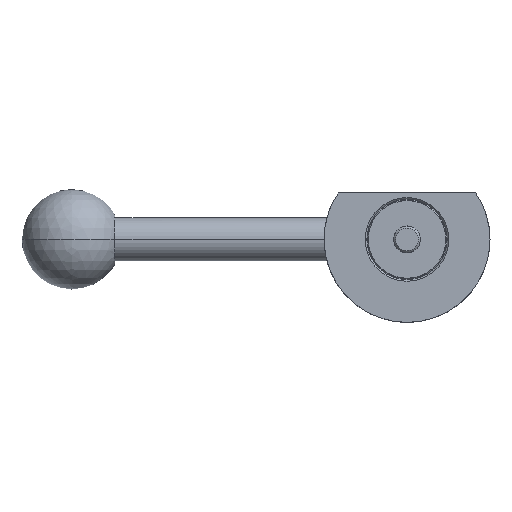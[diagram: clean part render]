
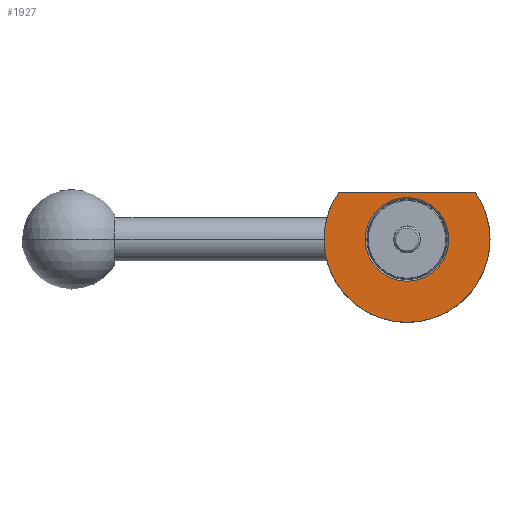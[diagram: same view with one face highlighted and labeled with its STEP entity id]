
A CAD part, front view. The second image highlights one B-rep face of the part: STEP entity #1927.
In plain terms, the highlighted planar face has unit normal (0, -1, 0).
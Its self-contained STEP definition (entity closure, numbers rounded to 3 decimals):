
#30 = EDGE_CURVE ( 'NONE', #373, #1295, #555, .T. ) ;
#73 = CARTESIAN_POINT ( 'NONE',  ( 25., -12., 0. ) ) ;
#84 = CIRCLE ( 'NONE', #1552, 25. ) ;
#118 = ORIENTED_EDGE ( 'NONE', *, *, #30, .T. ) ;
#155 = CARTESIAN_POINT ( 'NONE',  ( -12.6, -12., 0. ) ) ;
#218 = AXIS2_PLACEMENT_3D ( 'NONE', #823, #1948, #1146 ) ;
#228 = EDGE_CURVE ( 'NONE', #941, #1473, #994, .T. ) ;
#272 = VECTOR ( 'NONE', #1468, 1000. ) ;
#277 = EDGE_LOOP ( 'NONE', ( #1707, #491 ) ) ;
#342 = DIRECTION ( 'NONE',  ( 0., 1., 0. ) ) ;
#346 = AXIS2_PLACEMENT_3D ( 'NONE', #925, #1705, #1547 ) ;
#365 = CARTESIAN_POINT ( 'NONE',  ( -12.6, -12., 14. ) ) ;
#373 = VERTEX_POINT ( 'NONE', #1633 ) ;
#459 = DIRECTION ( 'NONE',  ( 0., -1., 0. ) ) ;
#461 = CARTESIAN_POINT ( 'NONE',  ( 12.6, -12., 0. ) ) ;
#463 = CARTESIAN_POINT ( 'NONE',  ( 0., -12., 0. ) ) ;
#480 = DIRECTION ( 'NONE',  ( 1., 0., 0. ) ) ;
#491 = ORIENTED_EDGE ( 'NONE', *, *, #228, .T. ) ;
#504 = ORIENTED_EDGE ( 'NONE', *, *, #1638, .F. ) ;
#555 = LINE ( 'NONE', #365, #272 ) ;
#559 = DIRECTION ( 'NONE',  ( -1., 0., 0. ) ) ;
#722 = DIRECTION ( 'NONE',  ( 0., 1., 0. ) ) ;
#743 = CARTESIAN_POINT ( 'NONE',  ( 0., -12., 0. ) ) ;
#750 = ORIENTED_EDGE ( 'NONE', *, *, #1158, .F. ) ;
#787 = DIRECTION ( 'NONE',  ( -1., 0., 0. ) ) ;
#794 = EDGE_LOOP ( 'NONE', ( #504, #118, #750, #1991 ) ) ;
#823 = CARTESIAN_POINT ( 'NONE',  ( 0., -12., 0. ) ) ;
#925 = CARTESIAN_POINT ( 'NONE',  ( 0., -12., 0. ) ) ;
#930 = CIRCLE ( 'NONE', #1878, 25. ) ;
#939 = DIRECTION ( 'NONE',  ( -1., 0., 0. ) ) ;
#941 = VERTEX_POINT ( 'NONE', #1348 ) ;
#994 = CIRCLE ( 'NONE', #346, 12.6 ) ;
#1122 = EDGE_CURVE ( 'NONE', #1627, #1230, #930, .T. ) ;
#1146 = DIRECTION ( 'NONE',  ( -1., 0., 0. ) ) ;
#1158 = EDGE_CURVE ( 'NONE', #1230, #1295, #84, .T. ) ;
#1230 = VERTEX_POINT ( 'NONE', #1366 ) ;
#1265 = AXIS2_PLACEMENT_3D ( 'NONE', #743, #722, #559 ) ;
#1295 = VERTEX_POINT ( 'NONE', #1503 ) ;
#1348 = CARTESIAN_POINT ( 'NONE',  ( -12.6, -12., 0. ) ) ;
#1366 = CARTESIAN_POINT ( 'NONE',  ( -25., -12., 0. ) ) ;
#1392 = CIRCLE ( 'NONE', #218, 25. ) ;
#1395 = FACE_BOUND ( 'NONE', #277, .T. ) ;
#1468 = DIRECTION ( 'NONE',  ( -1., 0., 0. ) ) ;
#1473 = VERTEX_POINT ( 'NONE', #461 ) ;
#1503 = CARTESIAN_POINT ( 'NONE',  ( -20.712, -12., 14. ) ) ;
#1547 = DIRECTION ( 'NONE',  ( -1., 0., 0. ) ) ;
#1552 = AXIS2_PLACEMENT_3D ( 'NONE', #1594, #342, #787 ) ;
#1561 = DIRECTION ( 'NONE',  ( 0., 1., 0. ) ) ;
#1594 = CARTESIAN_POINT ( 'NONE',  ( 0., -12., 0. ) ) ;
#1627 = VERTEX_POINT ( 'NONE', #73 ) ;
#1633 = CARTESIAN_POINT ( 'NONE',  ( 20.712, -12., 14. ) ) ;
#1638 = EDGE_CURVE ( 'NONE', #373, #1627, #1392, .T. ) ;
#1705 = DIRECTION ( 'NONE',  ( 0., 1., 0. ) ) ;
#1707 = ORIENTED_EDGE ( 'NONE', *, *, #1794, .T. ) ;
#1794 = EDGE_CURVE ( 'NONE', #1473, #941, #1881, .T. ) ;
#1821 = AXIS2_PLACEMENT_3D ( 'NONE', #155, #459, #480 ) ;
#1873 = PLANE ( 'NONE',  #1821 ) ;
#1878 = AXIS2_PLACEMENT_3D ( 'NONE', #463, #1561, #939 ) ;
#1881 = CIRCLE ( 'NONE', #1265, 12.6 ) ;
#1927 = ADVANCED_FACE ( 'NONE', ( #1395, #2016 ), #1873, .T. ) ;
#1948 = DIRECTION ( 'NONE',  ( 0., 1., 0. ) ) ;
#1991 = ORIENTED_EDGE ( 'NONE', *, *, #1122, .F. ) ;
#2016 = FACE_OUTER_BOUND ( 'NONE', #794, .T. ) ;
